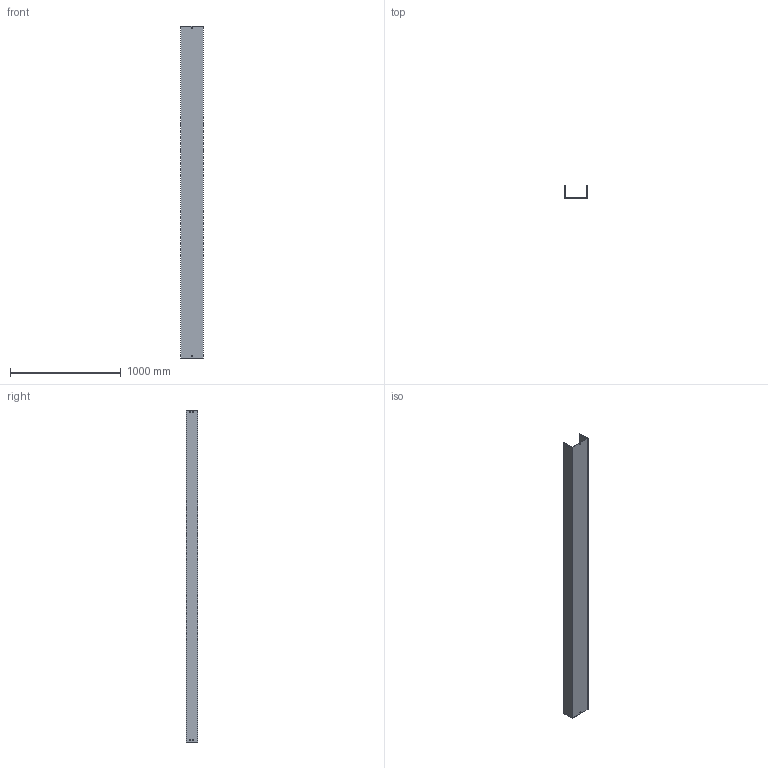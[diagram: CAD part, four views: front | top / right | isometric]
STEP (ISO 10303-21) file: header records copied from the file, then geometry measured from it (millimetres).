
FILE_DESCRIPTION (( 'STEP AP214' ), '1' );
FILE_NAME ('03B3D200.step', '2025-02-21T10:04:05', ( '' ), ( '' ), 'SwSTEP 2.0', 'SolidWorks 2023', '' );
FILE_SCHEMA (( 'AUTOMOTIVE_DESIGN' ));
Length unit declared in the file: millimetre
Products named in the file (1): 03B3D200
Bounding box: 204 x 104 x 3000 mm (x, y, z)
Volume: 4250130.5 mm3; surface area: 2453650 mm2
Topology: 1 solids, 1 shells, 50 faces, 144 edges, 96 vertices
Faces by surface type: plane 50
Entity records: 1671 total; most frequent: CARTESIAN_POINT 291, ORIENTED_EDGE 288, DIRECTION 246, LINE 144, EDGE_CURVE 144, VECTOR 144, VERTEX_POINT 96, EDGE_LOOP 70
